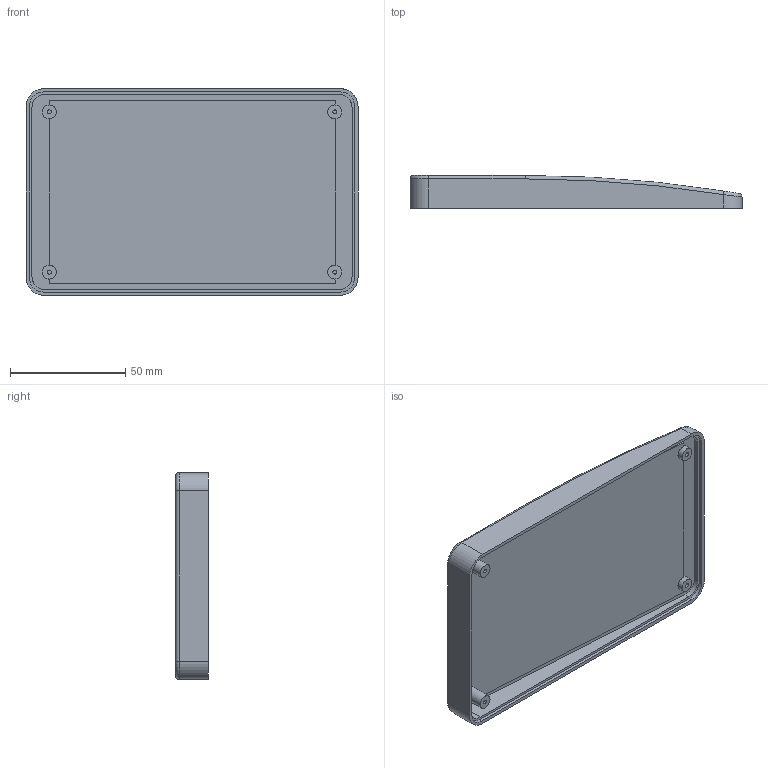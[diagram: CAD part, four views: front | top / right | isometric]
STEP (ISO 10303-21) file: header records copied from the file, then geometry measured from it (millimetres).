
FILE_DESCRIPTION (( 'STEP AP214' ), '1' );
FILE_NAME ('Tapa PP81.STEP', '2018-01-19T09:39:28', ( 'aaa' ), ( '' ), 'SwSTEP 2.0', 'SolidWorks 2013', '' );
FILE_SCHEMA (( 'AUTOMOTIVE_DESIGN' ));
Length unit declared in the file: millimetre
Products named in the file (1): Tapa PP81
Bounding box: 144 x 14.2 x 89.8 mm (x, y, z)
Volume: 52437.6 mm3; surface area: 36223 mm2
Topology: 1 solids, 1 shells, 77 faces, 194 edges, 126 vertices
Faces by surface type: plane 38, cylinder 33, torus 4, bspline 2
Entity records: 2562 total; most frequent: CARTESIAN_POINT 707, ORIENTED_EDGE 388, DIRECTION 374, EDGE_CURVE 194, AXIS2_PLACEMENT_3D 136, VERTEX_POINT 126, LINE 102, VECTOR 102
